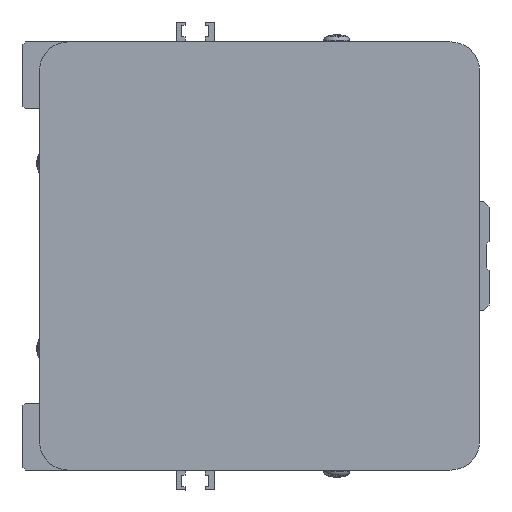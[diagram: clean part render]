
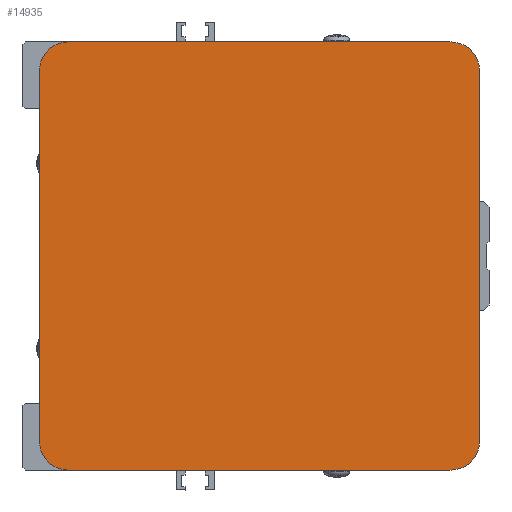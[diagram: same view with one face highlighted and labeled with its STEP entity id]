
A CAD part, left-side view. The second image highlights one B-rep face of the part: STEP entity #14935.
In plain terms, the highlighted planar face has unit normal (-1, 0, 0) as drawn and (0, 0, -1) by its records, which use the part's own axes.
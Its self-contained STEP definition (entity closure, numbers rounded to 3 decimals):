
#1159=CIRCLE('',#15911,6.);
#1161=CIRCLE('',#15916,6.);
#1162=CIRCLE('',#15922,6.);
#1163=CIRCLE('',#15924,6.);
#2054=FACE_OUTER_BOUND('',#2932,.T.);
#2932=EDGE_LOOP('',(#10426,#10427,#10428,#10429,#10430,#10431,#10432,#10433));
#4065=LINE('',#21366,#5310);
#4083=LINE('',#21405,#5328);
#4087=LINE('',#21417,#5332);
#4089=LINE('',#21424,#5334);
#5310=VECTOR('',#17459,78.);
#5328=VECTOR('',#17493,80.5);
#5332=VECTOR('',#17507,80.5);
#5334=VECTOR('',#17515,78.);
#6540=VERTEX_POINT('',#21360);
#6541=VERTEX_POINT('',#21364);
#6553=VERTEX_POINT('',#21402);
#6554=VERTEX_POINT('',#21404);
#6556=VERTEX_POINT('',#21413);
#6557=VERTEX_POINT('',#21415);
#6558=VERTEX_POINT('',#21419);
#6559=VERTEX_POINT('',#21423);
#8068=EDGE_CURVE('',#6541,#6540,#4065,.T.);
#8088=EDGE_CURVE('',#6553,#6554,#4083,.T.);
#8090=EDGE_CURVE('',#6554,#6541,#1159,.T.);
#8094=EDGE_CURVE('',#6557,#6556,#4087,.T.);
#8095=EDGE_CURVE('',#6556,#6558,#1161,.T.);
#8097=EDGE_CURVE('',#6558,#6559,#4089,.T.);
#8113=EDGE_CURVE('',#6559,#6553,#1162,.T.);
#8114=EDGE_CURVE('',#6540,#6557,#1163,.T.);
#10426=ORIENTED_EDGE('',*,*,#8095,.F.);
#10427=ORIENTED_EDGE('',*,*,#8094,.F.);
#10428=ORIENTED_EDGE('',*,*,#8114,.F.);
#10429=ORIENTED_EDGE('',*,*,#8068,.F.);
#10430=ORIENTED_EDGE('',*,*,#8090,.F.);
#10431=ORIENTED_EDGE('',*,*,#8088,.F.);
#10432=ORIENTED_EDGE('',*,*,#8113,.F.);
#10433=ORIENTED_EDGE('',*,*,#8097,.F.);
#14420=PLANE('',#15935);
#14935=ADVANCED_FACE('',(#2054),#14420,.T.);
#15911=AXIS2_PLACEMENT_3D('',#21408,#17497,#17498);
#15916=AXIS2_PLACEMENT_3D('',#21420,#17510,#17511);
#15922=AXIS2_PLACEMENT_3D('',#21452,#17539,#17540);
#15924=AXIS2_PLACEMENT_3D('',#21454,#17543,#17544);
#15935=AXIS2_PLACEMENT_3D('',#21473,#17570,#17571);
#17459=DIRECTION('',(1.,0.,0.));
#17493=DIRECTION('',(0.,-1.,0.));
#17497=DIRECTION('center_axis',(0.,0.,
1.));
#17498=DIRECTION('ref_axis',(-1.,0.,0.));
#17507=DIRECTION('',(0.,1.,0.));
#17510=DIRECTION('center_axis',(0.,0.,
1.));
#17511=DIRECTION('ref_axis',(1.,0.,0.));
#17515=DIRECTION('',(-1.,0.,0.));
#17539=DIRECTION('center_axis',(0.,0.,
1.));
#17540=DIRECTION('ref_axis',(0.,1.,0.));
#17543=DIRECTION('center_axis',(0.,0.,
1.));
#17544=DIRECTION('ref_axis',(0.,-1.,0.));
#17570=DIRECTION('center_axis',(0.,0.,
-1.));
#17571=DIRECTION('ref_axis',(0.545,-0.839,0.));
#21360=CARTESIAN_POINT('',(88.204,2.,-336.));
#21364=CARTESIAN_POINT('',(10.204,2.,-336.));
#21366=CARTESIAN_POINT('',(10.204,2.,-336.));
#21402=CARTESIAN_POINT('',(4.204,88.5,-336.));
#21404=CARTESIAN_POINT('',(4.204,8.,-336.));
#21405=CARTESIAN_POINT('',(4.204,88.5,-336.));
#21408=CARTESIAN_POINT('Origin',(10.204,8.,-336.));
#21413=CARTESIAN_POINT('',(94.204,88.5,-336.));
#21415=CARTESIAN_POINT('',(94.204,8.,-336.));
#21417=CARTESIAN_POINT('',(94.204,8.,-336.));
#21419=CARTESIAN_POINT('',(88.204,94.5,-336.));
#21420=CARTESIAN_POINT('Origin',(88.204,88.5,-336.));
#21423=CARTESIAN_POINT('',(10.204,94.5,-336.));
#21424=CARTESIAN_POINT('',(88.204,94.5,-336.));
#21452=CARTESIAN_POINT('Origin',(10.204,88.5,-336.));
#21454=CARTESIAN_POINT('Origin',(88.204,8.,-336.));
#21473=CARTESIAN_POINT('Origin',(49.204,26.,-336.));
